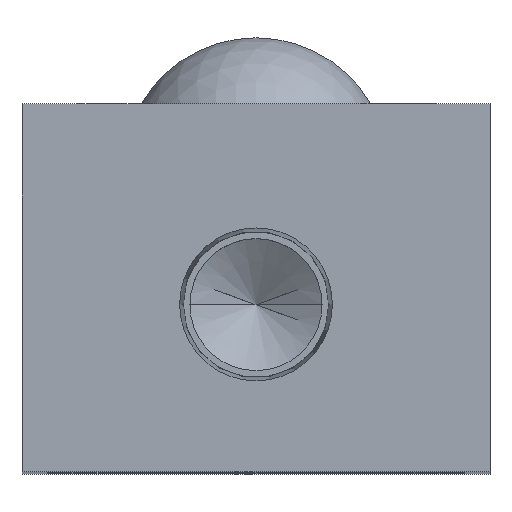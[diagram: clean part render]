
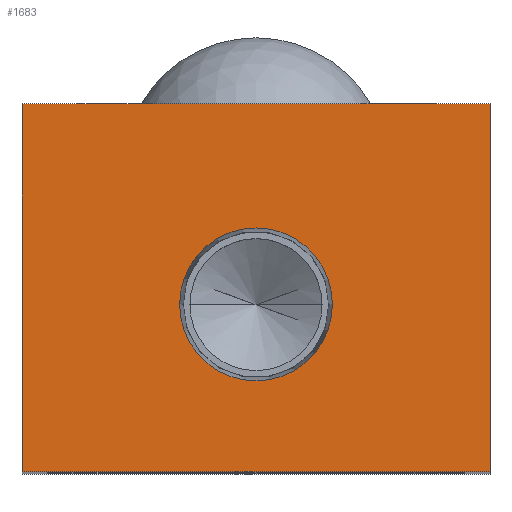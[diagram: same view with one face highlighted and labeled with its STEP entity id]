
A CAD part, top view. The second image highlights one B-rep face of the part: STEP entity #1683.
In plain terms, the highlighted planar face has unit normal (0, 0, 1).
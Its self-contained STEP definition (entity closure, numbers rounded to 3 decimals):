
#3 = DIRECTION ( 'NONE',  ( 1., 0., 0. ) ) ;
#103 = PLANE ( 'NONE',  #2696 ) ;
#111 = DIRECTION ( 'NONE',  ( -1., 0., 0. ) ) ;
#220 = LINE ( 'NONE', #2438, #739 ) ;
#281 = ORIENTED_EDGE ( 'NONE', *, *, #646, .T. ) ;
#368 = DIRECTION ( 'NONE',  ( -1., 0., 0. ) ) ;
#594 = CIRCLE ( 'NONE', #2440, 4.574 ) ;
#620 = EDGE_LOOP ( 'NONE', ( #2707, #953, #281, #1177 ) ) ;
#646 = EDGE_CURVE ( 'NONE', #2719, #1124, #2105, .T. ) ;
#691 = ORIENTED_EDGE ( 'NONE', *, *, #2102, .F. ) ;
#739 = VECTOR ( 'NONE', #1790, 1000. ) ;
#764 = ORIENTED_EDGE ( 'NONE', *, *, #2030, .F. ) ;
#852 = VECTOR ( 'NONE', #1086, 1000. ) ;
#953 = ORIENTED_EDGE ( 'NONE', *, *, #1882, .T. ) ;
#996 = CARTESIAN_POINT ( 'NONE',  ( 0., 0., 0. ) ) ;
#1086 = DIRECTION ( 'NONE',  ( 1., 0., 0. ) ) ;
#1087 = DIRECTION ( 'NONE',  ( 0., 0., 1. ) ) ;
#1124 = VERTEX_POINT ( 'NONE', #2593 ) ;
#1177 = ORIENTED_EDGE ( 'NONE', *, *, #1760, .T. ) ;
#1235 = CARTESIAN_POINT ( 'NONE',  ( -14., 0., 0. ) ) ;
#1255 = CARTESIAN_POINT ( 'NONE',  ( -14., 22., 0. ) ) ;
#1343 = DIRECTION ( 'NONE',  ( 0., 0., 1. ) ) ;
#1421 = VERTEX_POINT ( 'NONE', #1235 ) ;
#1438 = LINE ( 'NONE', #2201, #852 ) ;
#1449 = DIRECTION ( 'NONE',  ( 0., 0., -1. ) ) ;
#1461 = VERTEX_POINT ( 'NONE', #1255 ) ;
#1596 = VECTOR ( 'NONE', #2808, 1000. ) ;
#1650 = VECTOR ( 'NONE', #368, 1000. ) ;
#1681 = AXIS2_PLACEMENT_3D ( 'NONE', #2419, #1087, #2640 ) ;
#1683 = ADVANCED_FACE ( 'NONE', ( #1864, #2466 ), #103, .F. ) ;
#1751 = VERTEX_POINT ( 'NONE', #2352 ) ;
#1760 = EDGE_CURVE ( 'NONE', #1124, #1461, #2258, .T. ) ;
#1790 = DIRECTION ( 'NONE',  ( 0., -1., 0. ) ) ;
#1864 = FACE_BOUND ( 'NONE', #2689, .T. ) ;
#1882 = EDGE_CURVE ( 'NONE', #1421, #2719, #1438, .T. ) ;
#2013 = CIRCLE ( 'NONE', #1681, 4.574 ) ;
#2030 = EDGE_CURVE ( 'NONE', #2397, #1751, #2013, .T. ) ;
#2102 = EDGE_CURVE ( 'NONE', #1751, #2397, #594, .T. ) ;
#2105 = LINE ( 'NONE', #2399, #1596 ) ;
#2201 = CARTESIAN_POINT ( 'NONE',  ( -14., 0., 0. ) ) ;
#2258 = LINE ( 'NONE', #2364, #1650 ) ;
#2352 = CARTESIAN_POINT ( 'NONE',  ( 4.574, 10., 0. ) ) ;
#2364 = CARTESIAN_POINT ( 'NONE',  ( -14., 22., 0. ) ) ;
#2391 = CARTESIAN_POINT ( 'NONE',  ( -4.574, 10., 0. ) ) ;
#2397 = VERTEX_POINT ( 'NONE', #2391 ) ;
#2399 = CARTESIAN_POINT ( 'NONE',  ( 14., 0., 0. ) ) ;
#2419 = CARTESIAN_POINT ( 'NONE',  ( 0., 10., 0. ) ) ;
#2438 = CARTESIAN_POINT ( 'NONE',  ( -14., 0., 0. ) ) ;
#2440 = AXIS2_PLACEMENT_3D ( 'NONE', #2669, #1343, #3 ) ;
#2466 = FACE_OUTER_BOUND ( 'NONE', #620, .T. ) ;
#2522 = EDGE_CURVE ( 'NONE', #1461, #1421, #220, .T. ) ;
#2542 = CARTESIAN_POINT ( 'NONE',  ( 14., 0., 0. ) ) ;
#2593 = CARTESIAN_POINT ( 'NONE',  ( 14., 22., 0. ) ) ;
#2640 = DIRECTION ( 'NONE',  ( 1., 0., 0. ) ) ;
#2669 = CARTESIAN_POINT ( 'NONE',  ( 0., 10., 0. ) ) ;
#2689 = EDGE_LOOP ( 'NONE', ( #691, #764 ) ) ;
#2696 = AXIS2_PLACEMENT_3D ( 'NONE', #996, #1449, #111 ) ;
#2707 = ORIENTED_EDGE ( 'NONE', *, *, #2522, .T. ) ;
#2719 = VERTEX_POINT ( 'NONE', #2542 ) ;
#2808 = DIRECTION ( 'NONE',  ( 0., 1., 0. ) ) ;
